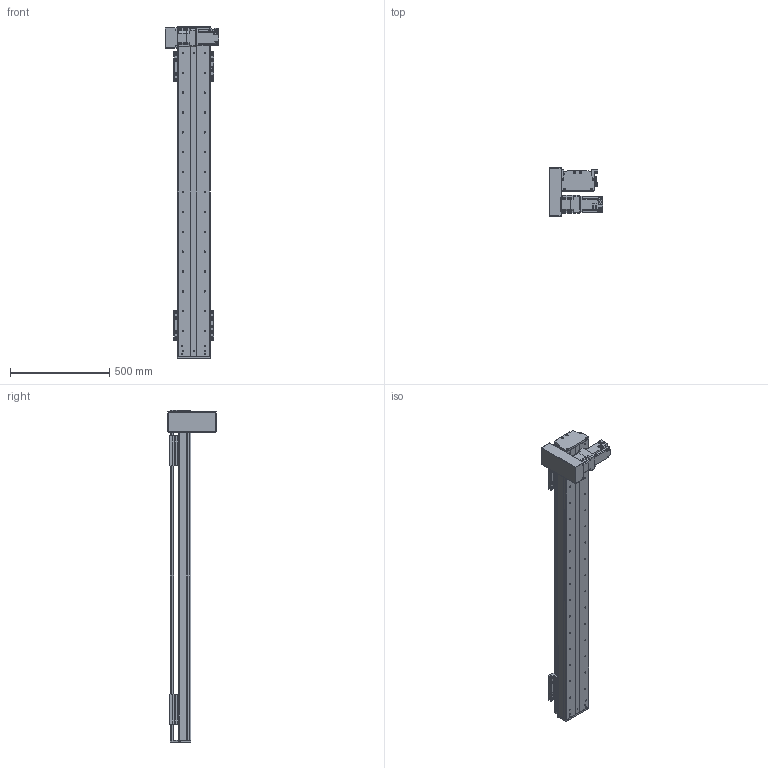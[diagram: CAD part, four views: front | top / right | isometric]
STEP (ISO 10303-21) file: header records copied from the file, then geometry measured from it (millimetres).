
FILE_DESCRIPTION(/* description */ (''),/* implementation_level */ '2;1');
FILE_NAME(/* name */ 'C:\Users\PC\Desktop\3D도면\STEP\DSB165-DL7G-W1300-R.stp',/* time_stamp */ '2018-06-25T15:38:57+09:00',/* author */ ('PC'),/* organization */ (''),/* preprocessor_version */ 'ST-DEVELOPER v16.5',/* originating_system */ 'Autodesk Inventor 2017',/* authorisation */ '');
FILE_SCHEMA (('AUTOMOTIVE_DESIGN { 1 0 10303 214 3 1 1 }'));
Length unit declared in the file: millimetre
Products named in the file (12): DSB165-L; DSR165-BASE_S; hg-kr73_; ab0901-p0401300102; 11-DBS165 BELT COVER; DBS165-COVER; DBS165-COVER_1; DBS165-UP COVER; DBS165-TABLE(MSA20S); DSR126-SENSOR DOG; SENSOR BRACKET(EE-SX674A); pm-y65_step
Assembly tree (16 placements, depth 2):
  DSB165-L
    DSR165-BASE_S
    hg-kr73_
    ab0901-p0401300102
    11-DBS165 BELT COVER
    DBS165-COVER
    DBS165-COVER_1
    DBS165-UP COVER
    DBS165-TABLE(MSA20S)  x2
    DSR126-SENSOR DOG
    pm-y65_step  x3
    SENSOR BRACKET(EE-SX674A)  x3
Bounding box: 270 x 242 x 1670 mm (x, y, z)
Volume: 10239437.9 mm3; surface area: 2379956 mm2
Topology: 17 solids, 22 shells, 1687 faces, 4525 edges, 2982 vertices
Faces by surface type: plane 926, cylinder 629, cone 120, sphere 8, torus 4
Full cylindrical faces by diameter (mm): 2.459 x20, 3.5 x6, 4.134 x42, 4.5 x18, 5 x27, 5.5 x36, 5.9 x4, 6 x8, 6.6 x14, 6.647 x48, 6.8 x1, 7 x4, 7.6 x4, 8 x1, 8.4 x1, 8.5 x24, 8.7 x1, 9.5 x32, 11 x6, 14 x16, 19 x1, 22 x1, 24 x1, 25 x1, 28 x1, 67 x1, 70 x2, 80 x1
Entity records: 35869 total; most frequent: DIRECTION 6348, CARTESIAN_POINT 6139, ORIENTED_EDGE 5574, EDGE_CURVE 2792, AXIS2_PLACEMENT_3D 2344, VERTEX_POINT 1997, EDGE_LOOP 1771, LINE 1660
